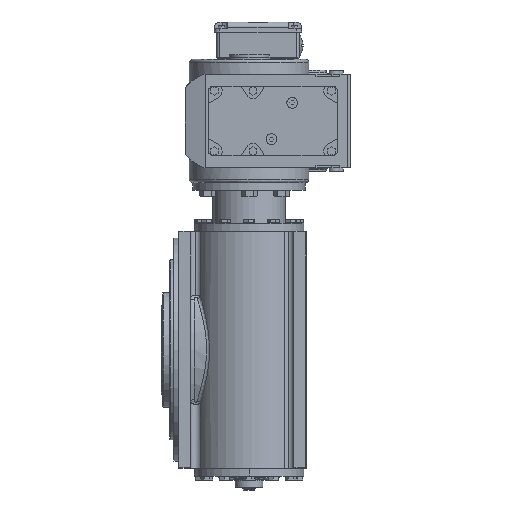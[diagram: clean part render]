
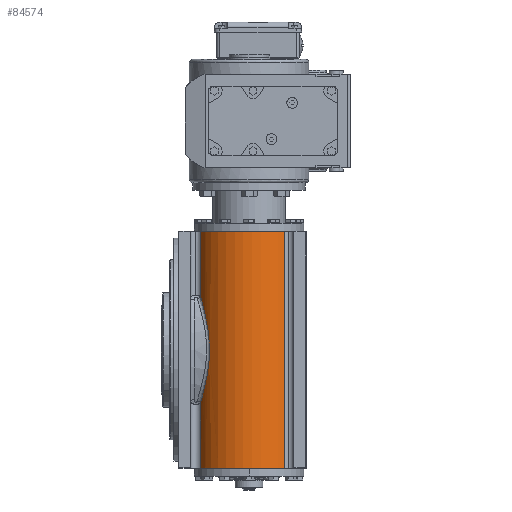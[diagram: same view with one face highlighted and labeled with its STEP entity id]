
A CAD part, left-side view. The second image highlights one B-rep face of the part: STEP entity #84574.
In plain terms, the highlighted cylindrical face has radius 71 mm (diameter 142 mm), a partial arc.
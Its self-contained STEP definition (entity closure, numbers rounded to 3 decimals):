
#612 = DIRECTION ( 'NONE',  ( 0., 0., 1. ) ) ;
#3285 = VERTEX_POINT ( 'NONE', #83338 ) ;
#4571 = CARTESIAN_POINT ( 'NONE',  ( -139.32, 129.475, 38.415 ) ) ;
#5805 = VERTEX_POINT ( 'NONE', #87483 ) ;
#6885 = CARTESIAN_POINT ( 'NONE',  ( -143.713, 125.653, 10.36 ) ) ;
#7373 = CARTESIAN_POINT ( 'NONE',  ( -136.93, 131.346, -47.157 ) ) ;
#8317 = CARTESIAN_POINT ( 'NONE',  ( -142.826, 126.476, -19.641 ) ) ;
#8507 = CARTESIAN_POINT ( 'NONE',  ( -128.109, 136.808, 500000. ) ) ;
#9237 = ORIENTED_EDGE ( 'NONE', *, *, #17044, .T. ) ;
#11836 = LINE ( 'NONE', #91607, #36741 ) ;
#12608 = EDGE_CURVE ( 'NONE', #80216, #53454, #29048, .T. ) ;
#13122 = EDGE_CURVE ( 'NONE', #22136, #3285, #78549, .T. ) ;
#14091 = CARTESIAN_POINT ( 'NONE',  ( -148.721, 27.577, -154. ) ) ;
#14510 = CARTESIAN_POINT ( 'NONE',  ( -143.967, 125.413, 5.846 ) ) ;
#15922 = CARTESIAN_POINT ( 'NONE',  ( -141.192, 127.924, -30.015 ) ) ;
#17044 = EDGE_CURVE ( 'NONE', #53454, #5805, #73230, .T. ) ;
#17734 = AXIS2_PLACEMENT_3D ( 'NONE', #50994, #86903, #41578 ) ;
#20186 = CARTESIAN_POINT ( 'NONE',  ( -143.2, 126.132, 16.387 ) ) ;
#20724 = CIRCLE ( 'NONE', #17734, 71. ) ;
#21103 = CARTESIAN_POINT ( 'NONE',  ( -138.584, 130.076, -41.542 ) ) ;
#21431 = ORIENTED_EDGE ( 'NONE', *, *, #56871, .F. ) ;
#22136 = VERTEX_POINT ( 'NONE', #14091 ) ;
#22496 = CARTESIAN_POINT ( 'NONE',  ( -141.962, 127.251, -25.6 ) ) ;
#23310 = FACE_OUTER_BOUND ( 'NONE', #74756, .T. ) ;
#24249 = DIRECTION ( 'NONE',  ( 0., 0., 1. ) ) ;
#27239 = ORIENTED_EDGE ( 'NONE', *, *, #12608, .T. ) ;
#27252 = CARTESIAN_POINT ( 'NONE',  ( -137.325, 131.008, 45.529 ) ) ;
#28534 = VERTEX_POINT ( 'NONE', #81427 ) ;
#29048 = B_SPLINE_CURVE_WITH_KNOTS ( 'NONE', 3,
 ( #63185, #40516, #69318, #62727, #91961, #76894, #27252, #56101, #4571, #55178, #84943, #20186, #48993, #77834, #6885, #14510, #50842, #57949, #92890, #8317, #86327, #30063, #22496, #15922, #57490, #21103, #7373, #72111, #58396, #44274 ),
 .UNSPECIFIED., .F., .F.,
 ( 4, 2, 2, 2, 2, 2, 2, 2, 2, 2, 2, 2, 2, 2, 4 ),
 ( 0., 0.018, 0.023, 0.027, 0.036, 0.055, 0.059, 0.064, 0.073, 0.091, 0.095, 0.1, 0.109, 0.127, 0.145 ),
 .UNSPECIFIED. ) ;
#30063 = CARTESIAN_POINT ( 'NONE',  ( -142.199, 127.041, -24.119 ) ) ;
#31758 = AXIS2_PLACEMENT_3D ( 'NONE', #56380, #612, #93188 ) ;
#33786 = VECTOR ( 'NONE', #66129, 1000. ) ;
#35235 = VECTOR ( 'NONE', #71450, 1000. ) ;
#36741 = VECTOR ( 'NONE', #40638, 1000. ) ;
#39097 = ORIENTED_EDGE ( 'NONE', *, *, #78038, .F. ) ;
#40516 = CARTESIAN_POINT ( 'NONE',  ( -130.725, 135.429, 63.555 ) ) ;
#40638 = DIRECTION ( 'NONE',  ( 0., 0., 1. ) ) ;
#41578 = DIRECTION ( 'NONE',  ( 1., 0., 0. ) ) ;
#44274 = CARTESIAN_POINT ( 'NONE',  ( -128.109, 136.808, -68.859 ) ) ;
#48354 = CARTESIAN_POINT ( 'NONE',  ( -128.109, 136.808, 68.859 ) ) ;
#48590 = ORIENTED_EDGE ( 'NONE', *, *, #13122, .T. ) ;
#48993 = CARTESIAN_POINT ( 'NONE',  ( -143.351, 125.993, 14.878 ) ) ;
#50408 = AXIS2_PLACEMENT_3D ( 'NONE', #69555, #24249, #53563 ) ;
#50842 = CARTESIAN_POINT ( 'NONE',  ( -144.049, 125.334, 2.839 ) ) ;
#50994 = CARTESIAN_POINT ( 'NONE',  ( -95., 74., 154. ) ) ;
#53454 = VERTEX_POINT ( 'NONE', #67631 ) ;
#53563 = DIRECTION ( 'NONE',  ( 1., 0., 0. ) ) ;
#55178 = CARTESIAN_POINT ( 'NONE',  ( -141.327, 127.831, 29.758 ) ) ;
#56101 = CARTESIAN_POINT ( 'NONE',  ( -138.57, 130.069, 41.275 ) ) ;
#56380 = CARTESIAN_POINT ( 'NONE',  ( -95., 74., -154. ) ) ;
#56871 = EDGE_CURVE ( 'NONE', #80216, #28534, #11836, .T. ) ;
#57490 = CARTESIAN_POINT ( 'NONE',  ( -140.598, 128.429, -32.922 ) ) ;
#57949 = CARTESIAN_POINT ( 'NONE',  ( -144.04, 125.343, -6.17 ) ) ;
#58396 = CARTESIAN_POINT ( 'NONE',  ( -130.722, 135.43, -63.561 ) ) ;
#62727 = CARTESIAN_POINT ( 'NONE',  ( -135.5, 132.319, 51.157 ) ) ;
#63185 = CARTESIAN_POINT ( 'NONE',  ( -128.109, 136.808, 68.859 ) ) ;
#66129 = DIRECTION ( 'NONE',  ( 0., 0., -1. ) ) ;
#67631 = CARTESIAN_POINT ( 'NONE',  ( -128.109, 136.808, -68.859 ) ) ;
#69318 = CARTESIAN_POINT ( 'NONE',  ( -133.018, 134.012, 58.125 ) ) ;
#69555 = CARTESIAN_POINT ( 'NONE',  ( -95., 74., -154. ) ) ;
#71450 = DIRECTION ( 'NONE',  ( 0., 0., 1. ) ) ;
#72111 = CARTESIAN_POINT ( 'NONE',  ( -132.999, 134.023, -58.167 ) ) ;
#73230 = LINE ( 'NONE', #8507, #33786 ) ;
#73856 = CYLINDRICAL_SURFACE ( 'NONE', #50408, 71. ) ;
#74756 = EDGE_LOOP ( 'NONE', ( #21431, #27239, #9237, #79240, #48590, #39097 ) ) ;
#76894 = CARTESIAN_POINT ( 'NONE',  ( -136.889, 131.329, 46.942 ) ) ;
#77834 = CARTESIAN_POINT ( 'NONE',  ( -143.607, 125.753, 11.865 ) ) ;
#78038 = EDGE_CURVE ( 'NONE', #28534, #3285, #20724, .T. ) ;
#78480 = CIRCLE ( 'NONE', #31758, 71. ) ;
#78549 = LINE ( 'NONE', #92215, #35235 ) ;
#79240 = ORIENTED_EDGE ( 'NONE', *, *, #80318, .T. ) ;
#80216 = VERTEX_POINT ( 'NONE', #48354 ) ;
#80318 = EDGE_CURVE ( 'NONE', #5805, #22136, #78480, .T. ) ;
#81427 = CARTESIAN_POINT ( 'NONE',  ( -128.109, 136.808, 154. ) ) ;
#83338 = CARTESIAN_POINT ( 'NONE',  ( -148.721, 27.577, 154. ) ) ;
#84574 = ADVANCED_FACE ( 'NONE', ( #23310 ), #73856, .T. ) ;
#84943 = CARTESIAN_POINT ( 'NONE',  ( -142.345, 126.918, 23.884 ) ) ;
#86327 = CARTESIAN_POINT ( 'NONE',  ( -142.631, 126.653, -21.138 ) ) ;
#86903 = DIRECTION ( 'NONE',  ( 0., 0., 1. ) ) ;
#87483 = CARTESIAN_POINT ( 'NONE',  ( -128.109, 136.808, -154. ) ) ;
#91607 = CARTESIAN_POINT ( 'NONE',  ( -128.109, 136.808, -500000. ) ) ;
#91961 = CARTESIAN_POINT ( 'NONE',  ( -135.977, 131.984, 49.755 ) ) ;
#92215 = CARTESIAN_POINT ( 'NONE',  ( -148.721, 27.577, -154. ) ) ;
#92890 = CARTESIAN_POINT ( 'NONE',  ( -143.692, 125.681, -12.164 ) ) ;
#93188 = DIRECTION ( 'NONE',  ( 1., 0., 0. ) ) ;
